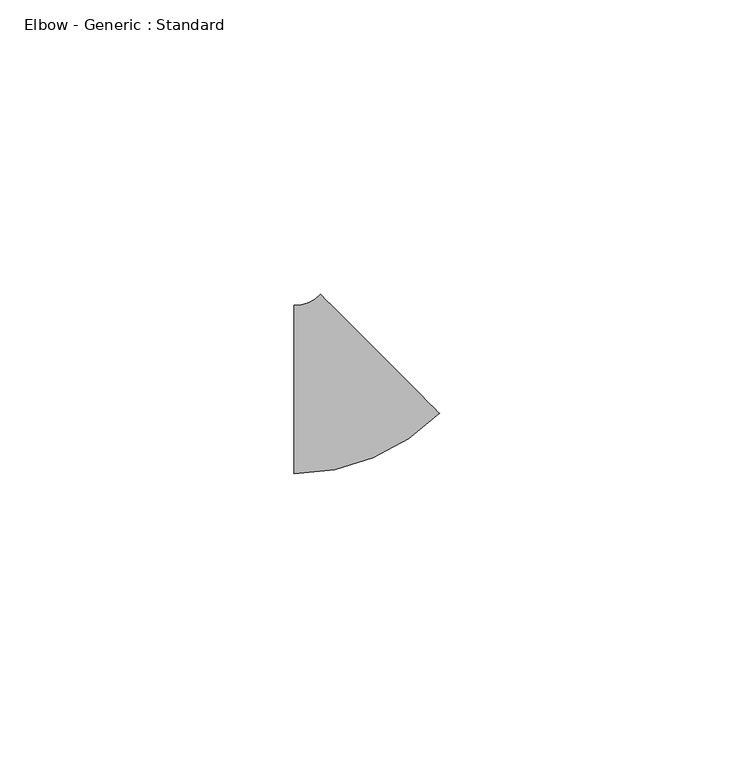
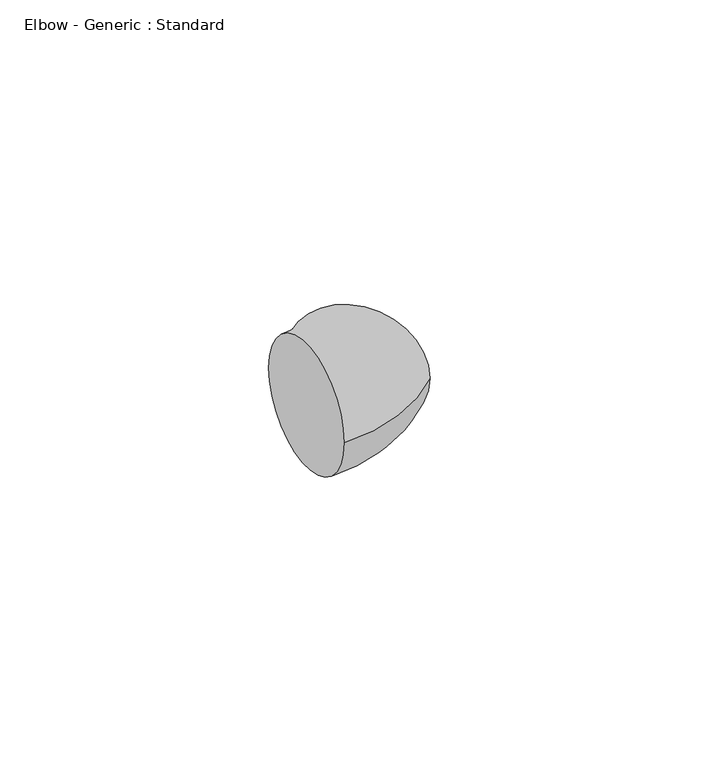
"""IFC4 building model written with IfcOpenShell, lengths in millimetres: pipe fitting geometry, Elbow - Generic : Standard."""

import ifcopenshell
import ifcopenshell.guid

model = None  # the IFC model being written
_history = None  # IfcOwnerHistory: only IFC2X3 demands one
_inside = {}  # id of a spatial element -> (the spatial element, [elements in it])
_under = {}  # id of a project, library or spatial element -> (it, [spatial elements below it])
_declared = {}  # id of a project -> (the project, [libraries it declares])
_typed = {}  # id of a type object -> (the type object, [elements of that type])
_made_of = {}  # id of a material, layer set ... -> (it, [elements and type objects made of it])


def new_model(schema):
    """Start an empty IFC model of exactly this schema.

    Asked for "IFC4X3", IfcOpenShell would pick the latest addendum, in which some entities
    have other attributes; the version numbers below select the first issue.
    IFC2X3 requires an IfcOwnerHistory on every rooted entity: one is made here for all.
    """
    global model, _history
    if schema == "IFC4X3":
        model = ifcopenshell.file(schema_version=(4, 3, 0, 0))
    else:
        model = ifcopenshell.file(schema=schema)
    _inside.clear()
    _under.clear()
    _declared.clear()
    _typed.clear()
    _made_of.clear()
    _history = None
    if model.schema == "IFC2X3":
        org = make("IfcOrganization", Name="unknown")
        user = make(
            "IfcPersonAndOrganization",
            ThePerson=make("IfcPerson", FamilyName="unknown"),
            TheOrganization=org,
        )
        app = make(
            "IfcApplication",
            ApplicationDeveloper=org,
            Version="unknown",
            ApplicationFullName="unknown",
            ApplicationIdentifier="unknown",
        )
        _history = make(
            "IfcOwnerHistory",
            OwningUser=user,
            OwningApplication=app,
            ChangeAction="ADDED",
            CreationDate=0,
        )
    return model


def make(cls, **values):
    """One entity of the class cls with the attributes given. An attribute that is None is left unset."""
    return model.create_entity(
        cls, **{name: value for name, value in values.items() if value is not None}
    )


def rooted(cls, **values):
    """An entity with a GlobalId (a new one), such as an element, a storey or a relation."""
    return make(cls, GlobalId=ifcopenshell.guid.new(), OwnerHistory=_history, **values)


def si_unit(unit_type, name, prefix=None):
    """IfcSIUnit, for example si_unit("LENGTHUNIT", "METRE", prefix="MILLI")."""
    return make("IfcSIUnit", UnitType=unit_type, Prefix=prefix, Name=name)


def assignment(units):
    """IfcUnitAssignment: the units of a project."""
    return None if units is None else make("IfcUnitAssignment", Units=units)


def point(xyz):
    """IfcCartesianPoint."""
    return None if xyz is None else make("IfcCartesianPoint", Coordinates=xyz)


def direction(xyz):
    """IfcDirection."""
    return None if xyz is None else make("IfcDirection", DirectionRatios=xyz)


def frame(location, z_axis=None, x_axis=None):
    """IfcAxis2Placement3D, a coordinate frame: its origin and axes. An axis left out is left unset."""
    return make(
        "IfcAxis2Placement3D",
        Location=point(location),
        Axis=direction(z_axis),
        RefDirection=direction(x_axis),
    )


def origin():
    """The frame at (0, 0, 0) with its axes left unset."""
    return frame((0.0, 0.0, 0.0))


def place(relative_to, where):
    """IfcLocalPlacement: puts the frame where relative to a parent placement (None: the world)."""
    return make(
        "IfcLocalPlacement", PlacementRelTo=relative_to, RelativePlacement=where
    )


def context(
    kind, dimensions, precision=None, world=None, true_north=None, identifier=None
):
    """IfcGeometricRepresentationContext, for example the 3D "Model" context."""
    return make(
        "IfcGeometricRepresentationContext",
        ContextIdentifier=identifier,
        ContextType=kind,
        CoordinateSpaceDimension=dimensions,
        Precision=precision,
        WorldCoordinateSystem=world,
        TrueNorth=true_north,
    )


def project(units=None, contexts=None):
    """IfcProject with its units and contexts."""
    return rooted(
        "IfcProject",
        Name="project",
        RepresentationContexts=contexts,
        UnitsInContext=assignment(units),
    )


def spatial(cls, under=None, at=None, **own):
    """A site, building, storey or space (cls), placed at a placement, below another one or the project."""
    s = rooted(cls, ObjectPlacement=at, **own)
    if under is not None:
        _under.setdefault(under.id(), (under, []))[1].append(s)
    return s


def circle_curve(where, radius):
    """IfcCircle in the frame where."""
    return make("IfcCircle", Position=where, Radius=radius)


def ellipse_curve(where, semi_axis1, semi_axis2):
    """IfcEllipse in the frame where."""
    return make(
        "IfcEllipse", Position=where, SemiAxis1=semi_axis1, SemiAxis2=semi_axis2
    )


def trimmed(basis, trim1, trim2, sense, master):
    """IfcTrimmedCurve: the piece of a basis curve between two trims."""
    return make(
        "IfcTrimmedCurve",
        BasisCurve=basis,
        Trim1=trim1,
        Trim2=trim2,
        SenseAgreement=sense,
        MasterRepresentation=master,
    )


def shape(context_of_items, identifier, shape_type, items):
    """IfcShapeRepresentation: the items that make up one representation, for example the "Body"."""
    return make(
        "IfcShapeRepresentation",
        ContextOfItems=context_of_items,
        RepresentationIdentifier=identifier,
        RepresentationType=shape_type,
        Items=items,
    )


def source(mapping_origin, context_of_items, identifier, shape_type, items):
    """IfcRepresentationMap: a shape defined once, which mapped items show again and again."""
    return make(
        "IfcRepresentationMap",
        MappingOrigin=mapping_origin,
        MappedRepresentation=shape(context_of_items, identifier, shape_type, items),
    )


def transform(
    local_origin,
    x_axis=None,
    y_axis=None,
    z_axis=None,
    scale=None,
    scale2=None,
    scale3=None,
    uniform=True,
):
    """IfcCartesianTransformationOperator3D, or its non-uniform kind. x_axis, y_axis, z_axis: its Axis1, 2, 3."""
    if uniform:
        return make(
            "IfcCartesianTransformationOperator3D",
            Axis1=direction(x_axis),
            Axis2=direction(y_axis),
            LocalOrigin=point(local_origin),
            Scale=scale,
            Axis3=direction(z_axis),
        )
    return make(
        "IfcCartesianTransformationOperator3DnonUniform",
        Axis1=direction(x_axis),
        Axis2=direction(y_axis),
        LocalOrigin=point(local_origin),
        Scale=scale,
        Axis3=direction(z_axis),
        Scale2=scale2,
        Scale3=scale3,
    )


def mapped(mapping_source, mapping_target):
    """IfcMappedItem: shows the shape of a source again, moved by a transform."""
    return make(
        "IfcMappedItem", MappingSource=mapping_source, MappingTarget=mapping_target
    )


def made_of(thing, what):
    """Note that an element or type object is made of a material, layer set ...; save() writes the relation."""
    if what is not None:
        _made_of.setdefault(what.id(), (what, []))[1].append(thing)
    return thing


def element(
    cls,
    number,
    at=None,
    inside=None,
    cuts=None,
    type_object=None,
    material=None,
    context=None,
    identifier="Body",
    shape_type=None,
    held_by="IfcProductDefinitionShape",
    body=None,
    shapes=None,
    **own,
):
    """One element of the class cls, such as IfcWall. Its Tag is "e" and its number.

    at: its placement. inside: the storey or other place that contains it. cuts: it is an
    opening in that element (IfcRelVoidsElement). A single representation is given by context,
    identifier, shape_type and body (its items); several are given by shapes. held_by: the class
    of the entity that holds the representations. save() writes the other relations.
    """
    e = rooted(cls, Tag="e%d" % number, ObjectPlacement=at, **own)
    if body is not None:
        shapes = [shape(context, identifier, shape_type, body)]
    if shapes is not None:
        e.Representation = make(held_by, Representations=shapes)
    if inside is not None:
        _inside.setdefault(inside.id(), (inside, []))[1].append(e)
    if cuts is not None:
        rooted(
            "IfcRelVoidsElement", RelatingBuildingElement=cuts, RelatedOpeningElement=e
        )
    if type_object is not None:
        _typed.setdefault(type_object.id(), (type_object, []))[1].append(e)
    return made_of(e, material)


def aggregate(whole, parts):
    """IfcRelAggregates: a whole, such as a stair, and the parts it consists of."""
    return rooted("IfcRelAggregates", RelatingObject=whole, RelatedObjects=parts)


def save(model, path):
    """Write the relations noted so far, then the file.

    IfcRelAggregates (storeys below a building ...), IfcRelContainedInSpatialStructure (elements
    in a storey), IfcRelDefinesByType, IfcRelAssociatesMaterial and IfcRelDeclares: one each for
    every whole, place, type object, material and project.
    """
    for whole, parts in _under.values():
        aggregate(whole, parts)
    for where, things in _inside.values():
        rooted(
            "IfcRelContainedInSpatialStructure",
            RelatedElements=things,
            RelatingStructure=where,
        )
    for kind, things in _typed.values():
        rooted("IfcRelDefinesByType", RelatedObjects=things, RelatingType=kind)
    for what, things in _made_of.values():
        rooted("IfcRelAssociatesMaterial", RelatedObjects=things, RelatingMaterial=what)
    for by, libraries in _declared.values():
        rooted("IfcRelDeclares", RelatingContext=by, RelatedDefinitions=libraries)
    model.write(path)


def plane_surface(at):
    """IfcPlane: the flat surface through the origin of the frame at, square to its z axis."""
    return make("IfcPlane", Position=at)


def revolved_surface(curve, axis_point, axis_direction):
    """IfcSurfaceOfRevolution: the curve turned about the line through axis_point along axis_direction."""
    return make(
        "IfcSurfaceOfRevolution",
        SweptCurve=make("IfcArbitraryOpenProfileDef", ProfileType="CURVE", Curve=curve),
        AxisPosition=make("IfcAxis1Placement", Location=point(axis_point), Axis=direction(axis_direction)),
    )


def advanced_brep(points, edges, surfaces, faces):
    """IfcAdvancedBrep: a solid bounded by faces that lie on surfaces and meet in shared edges.

    An edge is (start, end): straight between two places in points (the first is 0);
    or (start, end, curve); or (start, end, curve, False) where it runs against its curve.
    A face is (place in surfaces, loops), or (place, loops, False) where it looks against
    its surface's normal. A loop lists edges by number (the first is 1), with a minus sign
    where the edge is run from its end to its start. The first loop is the outer one.
    """
    corners = [point(p) for p in points]
    vertices = [make("IfcVertexPoint", VertexGeometry=c) for c in corners]
    made = []
    for start, end, *more in edges:
        made.append(
            make(
                "IfcEdgeCurve",
                EdgeStart=vertices[start],
                EdgeEnd=vertices[end],
                EdgeGeometry=more[0] if more else make("IfcPolyline", Points=[corners[start], corners[end]]),
                SameSense=more[1] if len(more) > 1 else True,
            )
        )
    hull = []
    for where, loops, *sense in faces:
        bounds = []
        for j, loop in enumerate(loops):
            ring = [make("IfcOrientedEdge", EdgeElement=made[abs(k) - 1], Orientation=k > 0) for k in loop]
            bounds.append(
                make(
                    "IfcFaceOuterBound" if j == 0 else "IfcFaceBound",
                    Bound=make("IfcEdgeLoop", EdgeList=ring),
                    Orientation=True,
                )
            )
        hull.append(make("IfcAdvancedFace", Bounds=bounds, FaceSurface=surfaces[where], SameSense=sense[0] if sense else True))
    return make("IfcAdvancedBrep", Outer=make("IfcClosedShell", CfsFaces=hull))


def elbow_generic_standard_1964ee4a(model_context):
    return source(origin(), model_context, "Body", "AdvancedBrep", [
        advanced_brep(
        [(-8.5483324, -14.2875, 0.0), (-8.5483324, 14.2875, 0.0), (16.1473719, -4.0582043, 0.0), (-4.0582043, 16.1473719, 0.0)],
        [
            (0, 1, circle_curve(frame((-8.5483324, 0.0, 0.0), z_axis=(-1.0, 0.0, 0.0), x_axis=(0.0, 1.0, 0.0)), 14.2875)),
            (1, 0, circle_curve(frame((-8.5483324, 0.0, 0.0), z_axis=(-1.0, 0.0, 0.0), x_axis=(0.0, 1.0, 0.0)), 14.2875)),
            (2, 3, circle_curve(frame((6.0445838, 6.0445838, 0.0), z_axis=(0.7071067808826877, 0.7071067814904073, 0.0), x_axis=(-0.7071067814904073, 0.7071067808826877, 0.0)), 14.2875)),
            (3, 2, circle_curve(frame((6.0445838, 6.0445838, 0.0), z_axis=(0.7071067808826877, 0.7071067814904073, 0.0), x_axis=(-0.7071067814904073, 0.7071067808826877, 0.0)), 14.2875)),
            (3, 1, circle_curve(frame((-8.5483324, 20.6375, 0.0), z_axis=(0.0, 0.0, -1.0), x_axis=(0.0, -1.0, 0.0)), 6.35)),
            (0, 2, circle_curve(frame((-8.5483324, 20.6375, 0.0), z_axis=(0.0, 0.0, 1.0), x_axis=(0.0, -1.0, 0.0)), 34.925)),
        ],
        [
            plane_surface(frame((-8.5483324, 0.0, 0.0), z_axis=(-1.0, 0.0, 0.0), x_axis=(0.0, 0.0, 1.0))),
            plane_surface(frame((6.0445838, 6.0445838, 0.0), z_axis=(0.707106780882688, 0.7071067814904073, 0.0), x_axis=(0.0, 0.0, 1.0))),
            revolved_surface(trimmed(ellipse_curve(frame((-8.5483324, 0.0, 0.0), z_axis=(-1.0, 0.0, 0.0), x_axis=(0.0, 1.0, 0.0)), 14.2875, 14.2875), [point((-8.5483324, -14.2875, 0.0))], [point((-8.5483324, 14.2875, 0.0))], True, "CARTESIAN"), (-8.5483324, 20.6375, 0.0), (0.0, 0.0, 1.0)),
            revolved_surface(trimmed(ellipse_curve(frame((-8.5483324, 0.0, 0.0), z_axis=(-1.0, 0.0, 0.0), x_axis=(0.0, 1.0, 0.0)), 14.2875, 14.2875), [point((-8.5483324, 14.2875, 0.0))], [point((-8.5483324, -14.2875, 0.0))], True, "CARTESIAN"), (-8.5483324, 20.6375, 0.0), (0.0, 0.0, 1.0)),
        ],
        [
            (0, [[1, 2]]),
            (1, [[3, 4]]),
            (2, [[5, -1, 6, -4]]),
            (3, [[-6, -2, -5, -3]]),
        ],
    ),
    ])


if __name__ == "__main__":
    model = new_model("IFC4")
    model_context = context("Model", 3, world=origin())
    ifc_project = project(units=[si_unit("LENGTHUNIT", "METRE", prefix="MILLI")], contexts=[model_context])
    site = spatial("IfcSite", under=ifc_project)
    building = spatial("IfcBuilding", under=site)
    placement = place(None, origin())
    elbow_generic_standard_shape = elbow_generic_standard_1964ee4a(model_context)
    element("IfcPipeFitting", 1, ObjectType="Elbow - Generic : Standard", at=placement, inside=building, context=model_context, shape_type="MappedRepresentation", body=[
        mapped(elbow_generic_standard_shape, transform((0.0, 0.0, 0.0), x_axis=(1.0, 0.0, 0.0), y_axis=(0.0, 1.0, 0.0), z_axis=(0.0, 0.0, 1.0))),
    ])
    save(model, "model.ifc")
